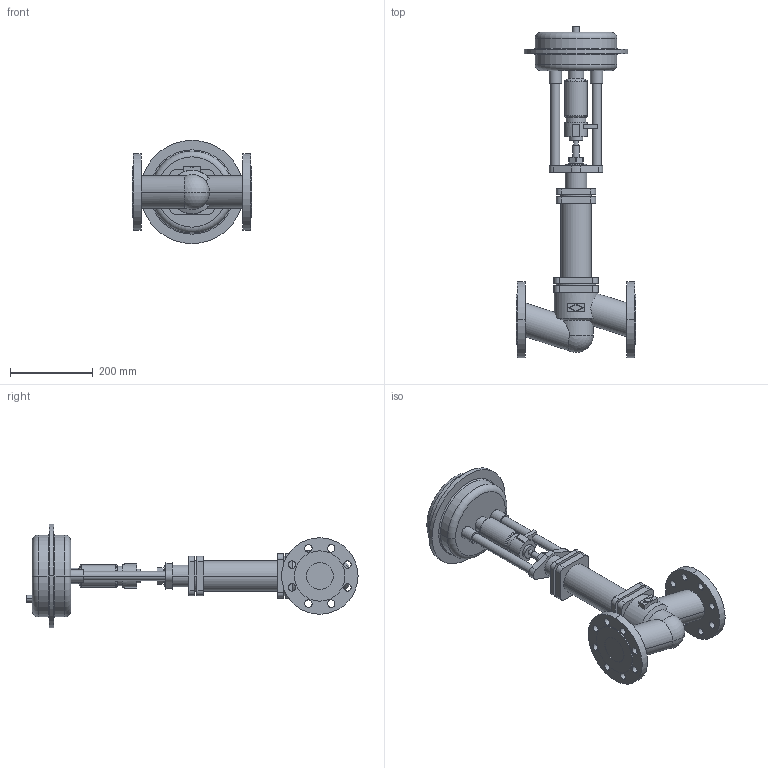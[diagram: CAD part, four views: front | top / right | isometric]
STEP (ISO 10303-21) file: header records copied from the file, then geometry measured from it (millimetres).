
FILE_DESCRIPTION(('OneSpaceDesigner STEP Export'),'2;1');
FILE_NAME('c000002086.stp','2005-12-12T11:49:05',(''),(''),'OneSpace Designer STEP processor for AP203 (Solid Model)','OneSpace Designer 13.20A 18-Aug-2005 (C) CoCreate Software GmbH','');
FILE_SCHEMA(('CONFIG_CONTROL_DESIGN'));
Length unit declared in the file: millimetre
Products named in the file (1): 1
Bounding box: 290 x 804 x 250 mm (x, y, z)
Volume: 7959012 mm3; surface area: 555143.1 mm2
Topology: 1 solids, 1 shells, 234 faces, 585 edges, 383 vertices
Faces by surface type: cylinder 120, plane 90, torus 16, cone 6, sphere 2
Entity records: 6657 total; most frequent: CARTESIAN_POINT 1331, ORIENTED_EDGE 1166, DIRECTION 989, EDGE_CURVE 583, VERTEX_POINT 383, AXIS2_PLACEMENT_3D 356, EDGE_LOOP 302, VECTOR 277
